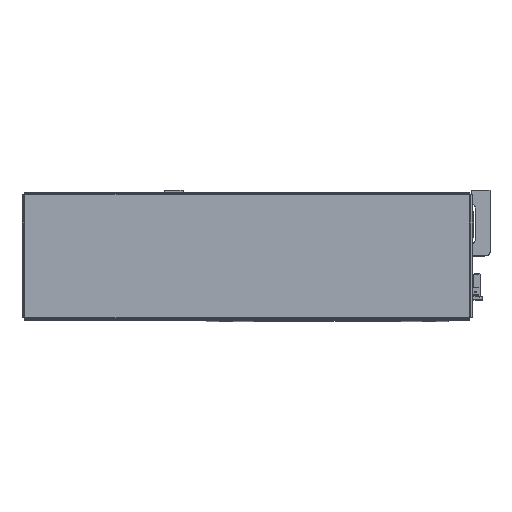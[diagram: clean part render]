
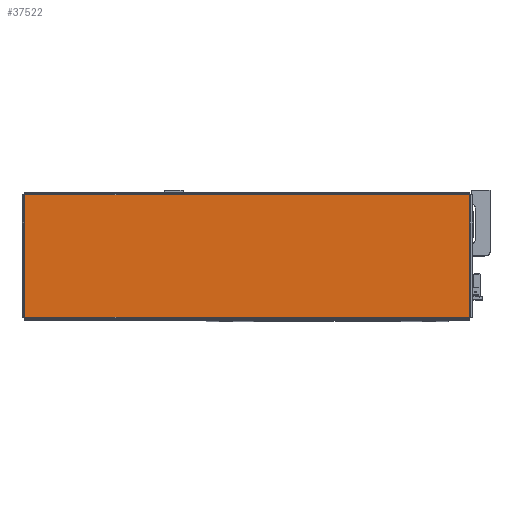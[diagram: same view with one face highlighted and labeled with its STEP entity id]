
A CAD part, top view. The second image highlights one B-rep face of the part: STEP entity #37522.
In plain terms, the highlighted planar face has unit normal (0, 0, 1) as drawn and (0, -1, 0) by its records, which use the part's own axes.
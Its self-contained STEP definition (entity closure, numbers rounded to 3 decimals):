
#1358 = CARTESIAN_POINT ( 'NONE',  ( 154.043, -1.2, 42.263 ) ) ;
#1371 = CARTESIAN_POINT ( 'NONE',  ( -154.043, -1.2, -42.263 ) ) ;
#1372 = DIRECTION ( 'NONE',  ( 1., 0., 0. ) ) ;
#1376 = DIRECTION ( 'NONE',  ( 0., 0., 1. ) ) ;
#1378 = CARTESIAN_POINT ( 'NONE',  ( 154.013, -1.2, -42.293 ) ) ;
#1389 = DIRECTION ( 'NONE',  ( -1., 0., 0. ) ) ;
#1422 = CARTESIAN_POINT ( 'NONE',  ( -154.013, -1.2, 42.293 ) ) ;
#1433 = DIRECTION ( 'NONE',  ( 0., 0., -1. ) ) ;
#4356 = VECTOR ( 'NONE', #1372, 1000. ) ;
#4360 = LINE ( 'NONE', #1358, #4383 ) ;
#4361 = VECTOR ( 'NONE', #1376, 1000. ) ;
#4363 = LINE ( 'NONE', #1422, #4404 ) ;
#4374 = LINE ( 'NONE', #1371, #4356 ) ;
#4383 = VECTOR ( 'NONE', #1389, 1000. ) ;
#4389 = LINE ( 'NONE', #1378, #4361 ) ;
#4404 = VECTOR ( 'NONE', #1433, 1000. ) ;
#7228 = EDGE_CURVE ( 'NONE', #41254, #41176, #4374, .T. ) ;
#7230 = EDGE_CURVE ( 'NONE', #41213, #41150, #4360, .T. ) ;
#7232 = EDGE_CURVE ( 'NONE', #41176, #41213, #4389, .T. ) ;
#7239 = EDGE_CURVE ( 'NONE', #41150, #41254, #4363, .T. ) ;
#8745 = EDGE_LOOP ( 'NONE', ( #36742, #36813, #36749, #36815 ) ) ;
#19958 = AXIS2_PLACEMENT_3D ( 'NONE', #40138, #40175, #40126 ) ;
#20804 = FACE_OUTER_BOUND ( 'NONE', #8745, .T. ) ;
#26076 = CARTESIAN_POINT ( 'NONE',  ( 154.013, -1.2, -42.263 ) ) ;
#26099 = CARTESIAN_POINT ( 'NONE',  ( -154.013, -1.2, 42.263 ) ) ;
#26145 = CARTESIAN_POINT ( 'NONE',  ( 154.013, -1.2, 42.263 ) ) ;
#26192 = CARTESIAN_POINT ( 'NONE',  ( -154.013, -1.2, -42.263 ) ) ;
#36742 = ORIENTED_EDGE ( 'NONE', *, *, #7232, .T. ) ;
#36749 = ORIENTED_EDGE ( 'NONE', *, *, #7239, .T. ) ;
#36813 = ORIENTED_EDGE ( 'NONE', *, *, #7230, .T. ) ;
#36815 = ORIENTED_EDGE ( 'NONE', *, *, #7228, .T. ) ;
#37522 = ADVANCED_FACE ( 'NONE', ( #20804 ), #40140, .F. ) ;
#40126 = DIRECTION ( 'NONE',  ( 0., 0., 1. ) ) ;
#40138 = CARTESIAN_POINT ( 'NONE',  ( 0., -1.2, 0. ) ) ;
#40140 = PLANE ( 'NONE',  #19958 ) ;
#40175 = DIRECTION ( 'NONE',  ( 0., 1., 0. ) ) ;
#41150 = VERTEX_POINT ( 'NONE', #26099 ) ;
#41176 = VERTEX_POINT ( 'NONE', #26076 ) ;
#41213 = VERTEX_POINT ( 'NONE', #26145 ) ;
#41254 = VERTEX_POINT ( 'NONE', #26192 ) ;
